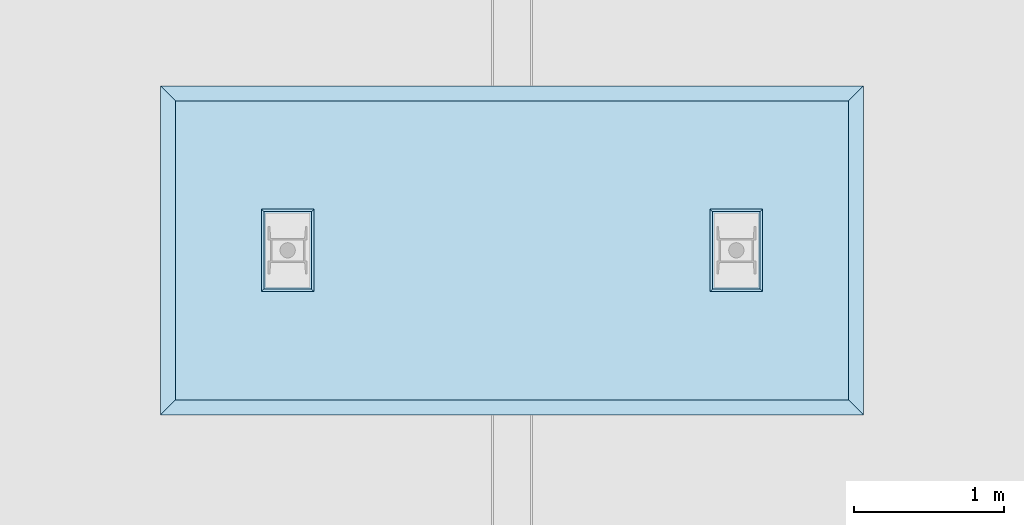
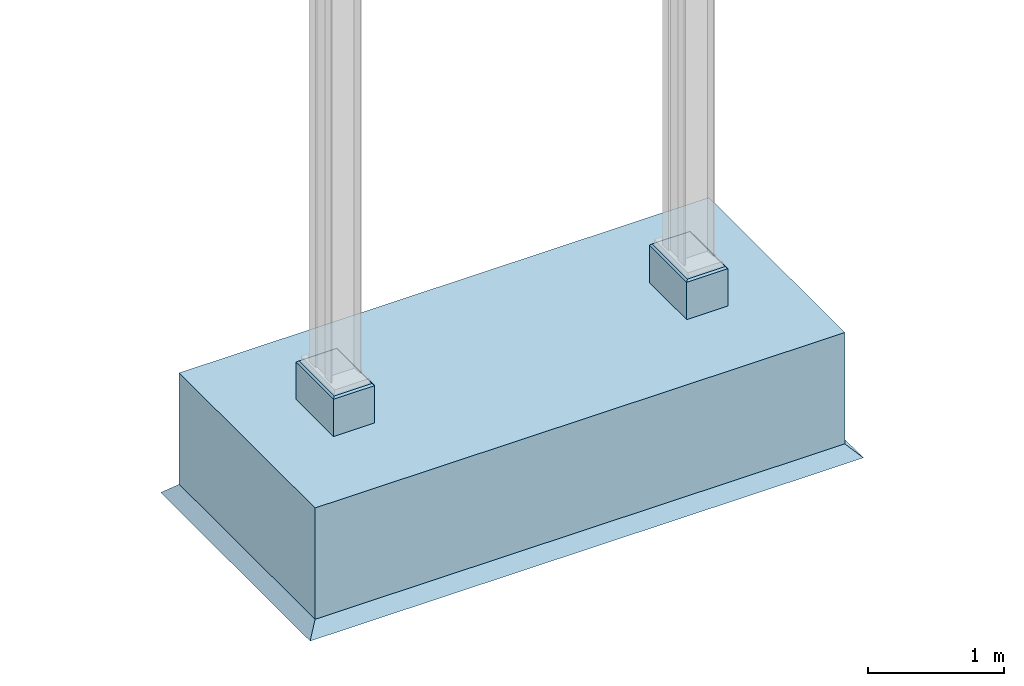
# One storey, incomplete: 1 slab.
"""IFC4 building model written with IfcOpenShell, lengths in metres."""

from ifc_helpers import new_model, entity, si_unit, converted_unit, direction, origin, place, context, subcontext, project, spatial, polygons, material, type_object, element, save


model = new_model("IFC4")

# Units and contexts
model_context = context("Model", 3, precision=1e-05, world=origin(), true_north=direction((6.123031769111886e-17, 1.0)))
body_context = subcontext(model_context, "Body", "Model", "MODEL_VIEW")
ifc_project = project(units=[si_unit("LENGTHUNIT", "METRE"), converted_unit("PLANEANGLEUNIT", "DEGREE", entity("IfcPlaneAngleMeasure", 0.017453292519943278), si_unit("PLANEANGLEUNIT", "RADIAN"), dimensions=[0, 0, 0, 0, 0, 0, 0])], contexts=[model_context])

# Site, building, storey
site_placement = place(None, origin())
site = spatial("IfcSite", under=ifc_project, at=site_placement, Name="Default", CompositionType="ELEMENT")
building_placement = place(site_placement, origin())
building = spatial("IfcBuilding", under=site, at=building_placement, CompositionType="ELEMENT")
storey_placement = place(building_placement, origin())
storey = spatial("IfcBuildingStorey", under=building, at=storey_placement, Name="DB_Bezugshoehe_max_Bahnsteigkante", CompositionType="ELEMENT", Elevation=0.0)

# Slab
ifc_material = material(Name="DB_Ortbeton", Category="DB_Beton")
slab_type = type_object("IfcSlabType", Name="DB_Systemdach_Fundament_Typ2.2:Variante1", PredefinedType="BASESLAB", material=ifc_material)
slab_placement = place(storey_placement, origin())
element("IfcSlab", 1, at=slab_placement, inside=storey, type_object=slab_type, Name="DB_Systemdach_Fundament_Typ2.2:Variante1", ObjectType="DB_Systemdach_Fundament_Typ2.2:Variante1", PredefinedType="BASESLAB", context=body_context, shape_type="Tessellation", body=[
    polygons([(2.2500000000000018, 1.000000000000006, -0.25), (-2.249999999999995, 1.000000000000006, -0.25), (-2.2499999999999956, -0.9999999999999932, -0.25), (2.2500000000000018, -0.9999999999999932, -0.25), (2.2500000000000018, 1.000000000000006, -1.2499999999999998), (2.2500000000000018, -0.9999999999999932, -1.2499999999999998), (-2.2499999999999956, -0.9999999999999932, -1.2499999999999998), (-2.249999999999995, 1.000000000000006, -1.2499999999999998)], [[[1, 2, 3, 4]], [[5, 6, 7, 8]], [[2, 1, 5, 8]], [[3, 2, 8, 7]], [[4, 3, 7, 6]], [[1, 4, 6, 5]]], closed=True),
    polygons([(2.250000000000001, 1.0000000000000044, -1.2499999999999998), (-2.249999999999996, 1.0000000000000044, -1.2499999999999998), (-2.249999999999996, -0.9999999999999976, -1.2499999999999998), (2.250000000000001, -0.9999999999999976, -1.2499999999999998), (2.350000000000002, 1.100000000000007, -1.3499999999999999), (2.350000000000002, -1.1000000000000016, -1.3499999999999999), (-2.35, -1.1000000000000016, -1.3499999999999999), (-2.35, 1.100000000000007, -1.3499999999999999)], [[[1, 2, 3, 4]], [[5, 6, 7, 8]], [[5, 8, 2, 1]], [[8, 7, 3, 2]], [[7, 6, 4, 3]], [[6, 5, 1, 4]]], closed=True),
    polygons([(1.6750000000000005, 0.2749999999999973, 0.08500000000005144), (1.3249999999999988, 0.2749999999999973, 0.08500000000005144), (1.3249999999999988, -0.27499999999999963, 0.08500000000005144), (1.6750000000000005, -0.27499999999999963, 0.08500000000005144), (1.6750000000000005, 0.2749999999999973, -0.24999999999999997), (1.3249999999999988, 0.2749999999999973, -0.24999999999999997), (1.3249999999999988, -0.27499999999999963, -0.24999999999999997), (1.6750000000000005, -0.27499999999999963, -0.24999999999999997)], [[[1, 2, 3, 4]], [[2, 1, 5, 6]], [[3, 2, 6, 7]], [[4, 3, 7, 8]], [[1, 4, 8, 5]], [[5, 8, 7, 6]]], closed=True),
    polygons([(-1.3250000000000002, 0.2749999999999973, -0.24999999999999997), (-1.3250000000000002, -0.27499999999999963, -0.24999999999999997), (-1.6749999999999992, -0.27499999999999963, -0.24999999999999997), (-1.6749999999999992, 0.2749999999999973, -0.24999999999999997), (-1.6749999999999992, 0.2749999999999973, 0.08500000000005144), (-1.3250000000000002, 0.2749999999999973, 0.08500000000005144), (-1.6749999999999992, -0.27499999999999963, 0.08500000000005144), (-1.3250000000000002, -0.27499999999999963, 0.08500000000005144)], [[[1, 2, 3, 4]], [[5, 6, 1, 4]], [[7, 5, 4, 3]], [[8, 7, 3, 2]], [[6, 8, 2, 1]], [[6, 5, 7, 8]]], closed=True),
    polygons([(1.3399999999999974, 0.2599999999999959, 0.0999999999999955), (1.3399999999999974, -0.2599999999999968, 0.09999999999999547), (1.6599999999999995, -0.2599999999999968, 0.09999999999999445), (1.6599999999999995, 0.25999999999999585, 0.09999999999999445), (1.3249999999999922, 0.27499999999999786, 0.08500000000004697), (1.6750000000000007, 0.27499999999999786, 0.08500000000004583), (1.6750000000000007, -0.2749999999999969, 0.08500000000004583), (1.3249999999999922, -0.2749999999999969, 0.08500000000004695)], [[[1, 2, 3, 4]], [[5, 6, 7, 8]], [[6, 5, 1, 4]], [[7, 6, 4, 3]], [[8, 7, 3, 2]], [[5, 8, 2, 1]]], closed=True),
    polygons([(-1.6600000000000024, 0.2599999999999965, 0.1000000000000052), (-1.6600000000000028, -0.2599999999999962, 0.1000000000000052), (-1.3400000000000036, -0.25999999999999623, 0.10000000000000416), (-1.3400000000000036, 0.2599999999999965, 0.10000000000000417), (-1.6750000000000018, 0.274999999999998, 0.08500000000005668), (-1.3250000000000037, 0.274999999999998, 0.08500000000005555), (-1.3250000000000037, -0.2749999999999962, 0.08500000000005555), (-1.6750000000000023, -0.27499999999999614, 0.08500000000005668)], [[[1, 2, 3, 4]], [[5, 6, 7, 8]], [[6, 5, 1, 4]], [[7, 6, 4, 3]], [[8, 7, 3, 2]], [[5, 8, 2, 1]]], closed=True),
])

save(model, "model.ifc")
